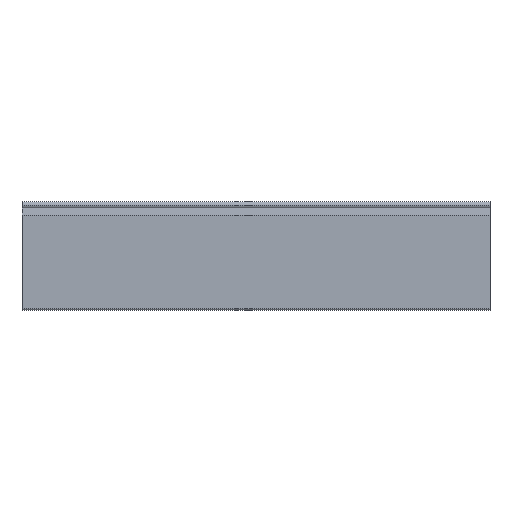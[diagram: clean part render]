
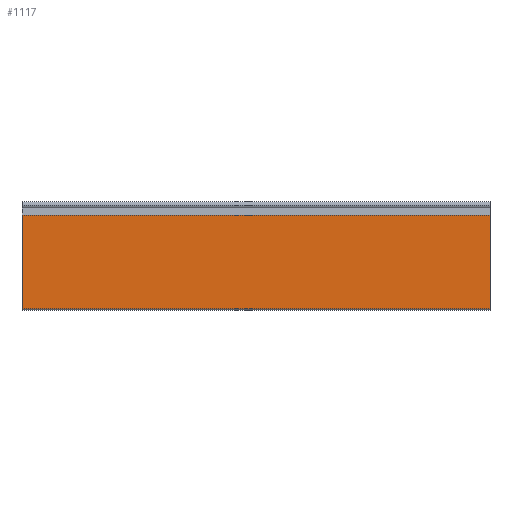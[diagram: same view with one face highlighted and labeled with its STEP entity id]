
A CAD part, top view. The second image highlights one B-rep face of the part: STEP entity #1117.
In plain terms, the highlighted planar face has unit normal (0, 0, 1).
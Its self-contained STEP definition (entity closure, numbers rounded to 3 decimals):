
#32 = EDGE_CURVE ( 'NONE', #168, #157, #424, .T. ) ;
#37 = EDGE_CURVE ( 'NONE', #130, #157, #450, .T. ) ;
#39 = EDGE_CURVE ( 'NONE', #139, #168, #454, .T. ) ;
#103 = ORIENTED_EDGE ( 'NONE', *, *, #39, .T. ) ;
#104 = ORIENTED_EDGE ( 'NONE', *, *, #564, .F. ) ;
#105 = ORIENTED_EDGE ( 'NONE', *, *, #37, .F. ) ;
#106 = ORIENTED_EDGE ( 'NONE', *, *, #32, .T. ) ;
#130 = VERTEX_POINT ( 'NONE', #353 ) ;
#139 = VERTEX_POINT ( 'NONE', #359 ) ;
#157 = VERTEX_POINT ( 'NONE', #805 ) ;
#168 = VERTEX_POINT ( 'NONE', #816 ) ;
#253 = CARTESIAN_POINT ( 'NONE',  ( -275., -12.164, 4.05 ) ) ;
#256 = DIRECTION ( 'NONE',  ( 0., -1., 0. ) ) ;
#265 = CARTESIAN_POINT ( 'NONE',  ( 275., -121.663, 4.05 ) ) ;
#266 = DIRECTION ( 'NONE',  ( -1., 0., 0. ) ) ;
#269 = CARTESIAN_POINT ( 'NONE',  ( 275., -12.164, 4.05 ) ) ;
#270 = DIRECTION ( 'NONE',  ( -1., 0., 0. ) ) ;
#353 = CARTESIAN_POINT ( 'NONE',  ( 275., -121.663, 4.05 ) ) ;
#359 = CARTESIAN_POINT ( 'NONE',  ( 275., -12.164, 4.05 ) ) ;
#424 = LINE ( 'NONE', #253, #440 ) ;
#440 = VECTOR ( 'NONE', #256, 1000. ) ;
#450 = LINE ( 'NONE', #265, #451 ) ;
#451 = VECTOR ( 'NONE', #266, 1000. ) ;
#454 = LINE ( 'NONE', #269, #455 ) ;
#455 = VECTOR ( 'NONE', #270, 1000. ) ;
#564 = EDGE_CURVE ( 'NONE', #139, #130, #699, .T. ) ;
#612 = AXIS2_PLACEMENT_3D ( 'NONE', #982, #991, #992 ) ;
#699 = LINE ( 'NONE', #945, #702 ) ;
#702 = VECTOR ( 'NONE', #946, 1000. ) ;
#726 = FACE_OUTER_BOUND ( 'NONE', #1248, .T. ) ;
#805 = CARTESIAN_POINT ( 'NONE',  ( -275., -121.663, 4.05 ) ) ;
#816 = CARTESIAN_POINT ( 'NONE',  ( -275., -12.164, 4.05 ) ) ;
#945 = CARTESIAN_POINT ( 'NONE',  ( 275., -12.164, 4.05 ) ) ;
#946 = DIRECTION ( 'NONE',  ( 0., -1., 0. ) ) ;
#979 = PLANE ( 'NONE',  #612 ) ;
#982 = CARTESIAN_POINT ( 'NONE',  ( 275., -12.164, 4.05 ) ) ;
#991 = DIRECTION ( 'NONE',  ( 0., 0., -1. ) ) ;
#992 = DIRECTION ( 'NONE',  ( 0., 1., 0. ) ) ;
#1117 = ADVANCED_FACE ( 'NONE', ( #726 ), #979, .F. ) ;
#1248 = EDGE_LOOP ( 'NONE', ( #106, #105, #104, #103 ) ) ;
